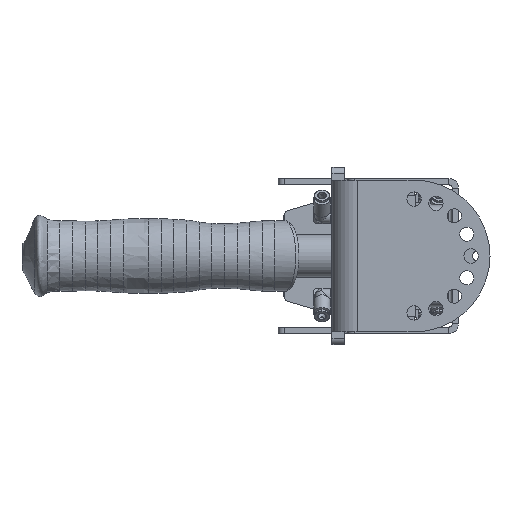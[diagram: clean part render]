
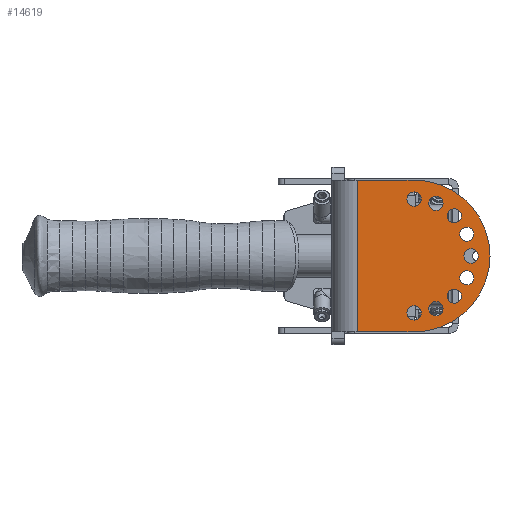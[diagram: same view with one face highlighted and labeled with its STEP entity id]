
A CAD part, front view. The second image highlights one B-rep face of the part: STEP entity #14619.
In plain terms, the highlighted planar face has unit normal (0, -1, 0).
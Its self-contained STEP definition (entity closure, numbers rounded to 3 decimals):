
#10680=LINE('',#49857,#12203);
#10681=LINE('',#49860,#12204);
#10682=LINE('',#49862,#12205);
#12203=VECTOR('',#37801,1.);
#12204=VECTOR('',#37802,1.);
#12205=VECTOR('',#37803,1.);
#13337=FACE_BOUND('',#17873,.T.);
#13338=FACE_BOUND('',#17874,.T.);
#13339=FACE_BOUND('',#17875,.T.);
#13340=FACE_BOUND('',#17876,.T.);
#13341=FACE_BOUND('',#17877,.T.);
#13342=FACE_BOUND('',#17878,.T.);
#13343=FACE_BOUND('',#17879,.T.);
#13344=FACE_BOUND('',#17880,.T.);
#13345=FACE_BOUND('',#17881,.T.);
#13346=FACE_BOUND('',#17882,.T.);
#14619=ADVANCED_FACE('',(#13337,#13338,#13339,#13340,#13341,#13342,#13343,
#13344,#13345,#13346),#15324,.F.);
#15324=PLANE('',#31775);
#17873=EDGE_LOOP('',(#23603));
#17874=EDGE_LOOP('',(#23604));
#17875=EDGE_LOOP('',(#23605));
#17876=EDGE_LOOP('',(#23606));
#17877=EDGE_LOOP('',(#23607));
#17878=EDGE_LOOP('',(#23608));
#17879=EDGE_LOOP('',(#23609));
#17880=EDGE_LOOP('',(#23610));
#17881=EDGE_LOOP('',(#23611));
#17882=EDGE_LOOP('',(#23612,#23613,#23614,#23615,#23616));
#23603=ORIENTED_EDGE('',*,*,#28461,.F.);
#23604=ORIENTED_EDGE('',*,*,#28462,.F.);
#23605=ORIENTED_EDGE('',*,*,#28463,.F.);
#23606=ORIENTED_EDGE('',*,*,#28464,.F.);
#23607=ORIENTED_EDGE('',*,*,#28465,.F.);
#23608=ORIENTED_EDGE('',*,*,#28466,.F.);
#23609=ORIENTED_EDGE('',*,*,#28467,.F.);
#23610=ORIENTED_EDGE('',*,*,#28468,.F.);
#23611=ORIENTED_EDGE('',*,*,#28469,.F.);
#23612=ORIENTED_EDGE('',*,*,#28470,.F.);
#23613=ORIENTED_EDGE('',*,*,#28471,.T.);
#23614=ORIENTED_EDGE('',*,*,#28472,.F.);
#23615=ORIENTED_EDGE('',*,*,#28473,.T.);
#23616=ORIENTED_EDGE('',*,*,#28474,.T.);
#25589=VERTEX_POINT('',#49840);
#25590=VERTEX_POINT('',#49842);
#25591=VERTEX_POINT('',#49844);
#25592=VERTEX_POINT('',#49846);
#25593=VERTEX_POINT('',#49848);
#25594=VERTEX_POINT('',#49850);
#25595=VERTEX_POINT('',#49852);
#25596=VERTEX_POINT('',#49854);
#25597=VERTEX_POINT('',#49856);
#25598=VERTEX_POINT('',#49858);
#25599=VERTEX_POINT('',#49859);
#25600=VERTEX_POINT('',#49861);
#25601=VERTEX_POINT('',#49863);
#25602=VERTEX_POINT('',#49865);
#28461=EDGE_CURVE('',#25589,#25589,#29508,.T.);
#28462=EDGE_CURVE('',#25590,#25590,#29509,.T.);
#28463=EDGE_CURVE('',#25591,#25591,#29510,.T.);
#28464=EDGE_CURVE('',#25592,#25592,#29511,.T.);
#28465=EDGE_CURVE('',#25593,#25593,#29512,.T.);
#28466=EDGE_CURVE('',#25594,#25594,#29513,.T.);
#28467=EDGE_CURVE('',#25595,#25595,#29514,.T.);
#28468=EDGE_CURVE('',#25596,#25596,#29515,.T.);
#28469=EDGE_CURVE('',#25597,#25597,#29516,.T.);
#28470=EDGE_CURVE('',#25598,#25599,#10680,.T.);
#28471=EDGE_CURVE('',#25598,#25600,#10681,.T.);
#28472=EDGE_CURVE('',#25601,#25600,#10682,.T.);
#28473=EDGE_CURVE('',#25601,#25602,#29517,.T.);
#28474=EDGE_CURVE('',#25602,#25599,#29518,.T.);
#29508=CIRCLE('',#31764,3.572);
#29509=CIRCLE('',#31765,3.572);
#29510=CIRCLE('',#31766,3.572);
#29511=CIRCLE('',#31767,3.572);
#29512=CIRCLE('',#31768,3.572);
#29513=CIRCLE('',#31769,3.572);
#29514=CIRCLE('',#31770,3.572);
#29515=CIRCLE('',#31771,3.572);
#29516=CIRCLE('',#31772,3.572);
#29517=CIRCLE('',#31773,38.1);
#29518=CIRCLE('',#31774,38.1);
#31764=AXIS2_PLACEMENT_3D('',#49839,#37783,#37784);
#31765=AXIS2_PLACEMENT_3D('',#49841,#37785,#37786);
#31766=AXIS2_PLACEMENT_3D('',#49843,#37787,#37788);
#31767=AXIS2_PLACEMENT_3D('',#49845,#37789,#37790);
#31768=AXIS2_PLACEMENT_3D('',#49847,#37791,#37792);
#31769=AXIS2_PLACEMENT_3D('',#49849,#37793,#37794);
#31770=AXIS2_PLACEMENT_3D('',#49851,#37795,#37796);
#31771=AXIS2_PLACEMENT_3D('',#49853,#37797,#37798);
#31772=AXIS2_PLACEMENT_3D('',#49855,#37799,#37800);
#31773=AXIS2_PLACEMENT_3D('',#49864,#37804,#37805);
#31774=AXIS2_PLACEMENT_3D('',#49866,#37806,#37807);
#31775=AXIS2_PLACEMENT_3D('',#49867,#37808,#37809);
#37783=DIRECTION('',(0.,-1.,0.));
#37784=DIRECTION('',(0.,0.,-1.));
#37785=DIRECTION('',(0.,-1.,0.));
#37786=DIRECTION('',(0.,0.,-1.));
#37787=DIRECTION('',(0.,-1.,0.));
#37788=DIRECTION('',(0.,0.,-1.));
#37789=DIRECTION('',(0.,-1.,0.));
#37790=DIRECTION('',(0.,0.,-1.));
#37791=DIRECTION('',(0.,-1.,0.));
#37792=DIRECTION('',(0.,0.,-1.));
#37793=DIRECTION('',(0.,-1.,0.));
#37794=DIRECTION('',(0.,0.,-1.));
#37795=DIRECTION('',(0.,-1.,0.));
#37796=DIRECTION('',(0.,0.,-1.));
#37797=DIRECTION('',(0.,-1.,0.));
#37798=DIRECTION('',(0.,0.,-1.));
#37799=DIRECTION('',(0.,-1.,0.));
#37800=DIRECTION('',(0.,0.,-1.));
#37801=DIRECTION('',(1.,0.,0.));
#37802=DIRECTION('',(0.,0.,-1.));
#37803=DIRECTION('',(-1.,0.,0.));
#37804=DIRECTION('',(0.,-1.,0.));
#37805=DIRECTION('',(0.,0.,-1.));
#37806=DIRECTION('',(0.,-1.,0.));
#37807=DIRECTION('',(0.,0.,-1.));
#37808=DIRECTION('',(0.,1.,0.));
#37809=DIRECTION('',(0.,0.,-1.));
#49839=CARTESIAN_POINT('',(144.462,-83.741,0.));
#49840=CARTESIAN_POINT('',(144.462,-83.741,-3.572));
#49841=CARTESIAN_POINT('',(142.287,-83.741,10.935));
#49842=CARTESIAN_POINT('',(142.287,-83.741,7.363));
#49843=CARTESIAN_POINT('',(136.093,-83.741,20.206));
#49844=CARTESIAN_POINT('',(136.093,-83.741,16.634));
#49845=CARTESIAN_POINT('',(126.823,-83.741,26.4));
#49846=CARTESIAN_POINT('',(126.823,-83.741,22.828));
#49847=CARTESIAN_POINT('',(115.887,-83.741,28.575));
#49848=CARTESIAN_POINT('',(115.887,-83.741,25.003));
#49849=CARTESIAN_POINT('',(142.287,-83.741,-10.935));
#49850=CARTESIAN_POINT('',(142.287,-83.741,-14.507));
#49851=CARTESIAN_POINT('',(136.093,-83.741,-20.206));
#49852=CARTESIAN_POINT('',(136.093,-83.741,-23.777));
#49853=CARTESIAN_POINT('',(126.823,-83.741,-26.4));
#49854=CARTESIAN_POINT('',(126.823,-83.741,-29.972));
#49855=CARTESIAN_POINT('',(115.887,-83.741,-28.575));
#49856=CARTESIAN_POINT('',(115.887,-83.741,-32.147));
#49857=CARTESIAN_POINT('',(153.987,-83.741,38.1));
#49858=CARTESIAN_POINT('',(87.313,-83.741,38.1));
#49859=CARTESIAN_POINT('',(115.887,-83.741,38.1));
#49860=CARTESIAN_POINT('',(87.313,-83.741,-82.55));
#49861=CARTESIAN_POINT('',(87.313,-83.741,-38.1));
#49862=CARTESIAN_POINT('',(153.987,-83.741,-38.1));
#49863=CARTESIAN_POINT('',(115.887,-83.741,-38.1));
#49864=CARTESIAN_POINT('',(115.887,-83.741,0.));
#49865=CARTESIAN_POINT('',(153.987,-83.741,0.));
#49866=CARTESIAN_POINT('',(115.887,-83.741,0.));
#49867=CARTESIAN_POINT('',(153.987,-83.741,-82.55));
